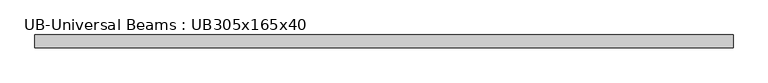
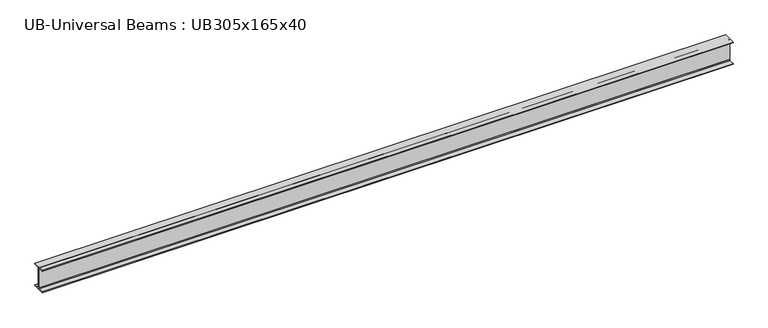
"""IFC4 building model written with IfcOpenShell, lengths in millimetres: beam geometry, UB-Universal Beams : UB305x165x40."""

from ifc_helpers import new_model, si_unit, point, frame, frame_2d, origin, place, context, project, spatial, polyline, circle_curve, trimmed, segment, composite_curve, outline, extrude, source, transform, mapped, element, save


def ub_universal_beams_ub305x165x40_c4d0385b(model_context):
    return source(origin(), model_context, "Body", "SweptSolid", [
        extrude(outline(composite_curve([segment(polyline([(82.5, -141.5), (82.5, -151.7), (-82.5, -151.7), (-82.5, -141.5), (-11.9, -141.5)]), True, "CONTINUOUS"), segment(trimmed(circle_curve(frame_2d((-11.9, -132.6)), 8.9), [point((-11.9, -141.5))], [point((-3.0, -132.6))], True, "CARTESIAN"), True, "CONTINUOUS"), segment(polyline([(-3.0, -132.6), (-3.0, 132.6)]), True, "CONTINUOUS"), segment(trimmed(circle_curve(frame_2d((-11.9, 132.6)), 8.9), [point((-3.0, 132.6))], [point((-11.9, 141.5))], True, "CARTESIAN"), True, "CONTINUOUS"), segment(polyline([(-11.9, 141.5), (-82.5, 141.5), (-82.5, 151.7), (82.5, 151.7), (82.5, 141.5), (11.9, 141.5)]), True, "CONTINUOUS"), segment(trimmed(circle_curve(frame_2d((11.9, 132.6)), 8.9), [point((11.9, 141.5))], [point((3.0, 132.6))], True, "CARTESIAN"), True, "CONTINUOUS"), segment(polyline([(3.0, 132.6), (3.0, -132.6)]), True, "CONTINUOUS"), segment(trimmed(circle_curve(frame_2d((11.9, -132.6)), 8.9), [point((3.0, -132.6))], [point((11.9, -141.5))], True, "CARTESIAN"), True, "CONTINUOUS"), segment(polyline([(11.9, -141.5), (82.5, -141.5)]), True, "CONTINUOUS")], self_intersect=False)), frame((-4473.5, 0.0, 0.0), z_axis=(1.0, 0.0, 0.0), x_axis=(0.0, 1.0, 0.0)), (0.0, 0.0, 1.0), 8947.0),
    ])


if __name__ == "__main__":
    model = new_model("IFC4")
    model_context = context("Model", 3, world=origin())
    ifc_project = project(units=[si_unit("LENGTHUNIT", "METRE", prefix="MILLI")], contexts=[model_context])
    site = spatial("IfcSite", under=ifc_project)
    building = spatial("IfcBuilding", under=site)
    placement = place(None, origin())
    ub_universal_beams_ub305x165x40_shape = ub_universal_beams_ub305x165x40_c4d0385b(model_context)
    element("IfcBeam", 1, ObjectType="UB-Universal Beams : UB305x165x40", at=placement, inside=building, context=model_context, shape_type="MappedRepresentation", body=[
        mapped(ub_universal_beams_ub305x165x40_shape, transform((0.0, 0.0, 0.0), x_axis=(1.0, 0.0, 0.0), y_axis=(0.0, 1.0, 0.0), z_axis=(0.0, 0.0, 1.0))),
    ])
    save(model, "model.ifc")
